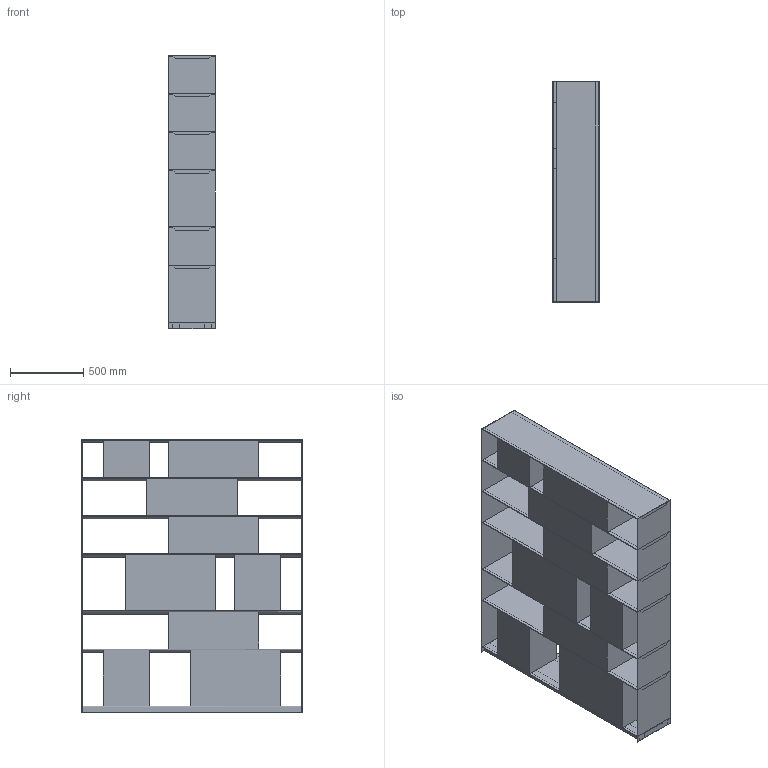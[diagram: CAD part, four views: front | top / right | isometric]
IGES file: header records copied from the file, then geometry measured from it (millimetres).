
Start section: Comment
Global section: file name: Stack - 150 x 186.igs; native system:  By UGS Corp.; preprocessor: XPlus GENERIC/IGES 3.0; author: Author; organization: Title; date: 20141016.143807; units: inch
Bounding box: 319 x 1505 x 1863 mm (x, y, z)
Surface area: 15495975.6 mm2 (no closed solid volume)
Topology: 0 solids, 0 shells, 238 faces, 1176 edges, 1176 vertices
Faces by surface type: bspline 238
